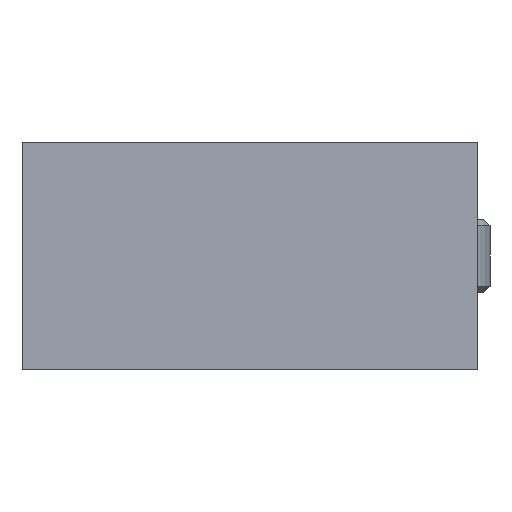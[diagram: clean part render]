
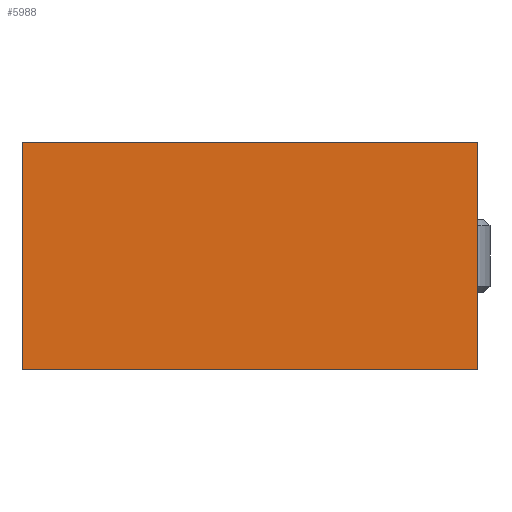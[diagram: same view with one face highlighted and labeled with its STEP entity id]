
A CAD part, left-side view. The second image highlights one B-rep face of the part: STEP entity #5988.
In plain terms, the highlighted planar face has unit normal (-1, 0, 0).
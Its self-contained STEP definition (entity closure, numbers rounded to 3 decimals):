
#1056 = LINE ( 'NONE', #1057, #1058 ) ;
#1057 = CARTESIAN_POINT ( 'NONE',  ( 0., 18., 0. ) ) ;
#1058 = VECTOR ( 'NONE', #1059, 1000. ) ;
#1059 = DIRECTION ( 'NONE',  ( 0., 0., -1. ) ) ;
#2178 = VERTEX_POINT ( 'NONE', #2984 ) ;
#2511 = VERTEX_POINT ( 'NONE', #3166 ) ;
#2599 = ORIENTED_EDGE ( 'NONE', *, *, #2934, .F. ) ;
#2934 = EDGE_CURVE ( 'NONE', #2511, #2178, #3357, .T. ) ;
#2984 = CARTESIAN_POINT ( 'NONE',  ( 0., -18., 9. ) ) ;
#3166 = CARTESIAN_POINT ( 'NONE',  ( 0., 18., 9. ) ) ;
#3357 = LINE ( 'NONE', #3358, #3359 ) ;
#3358 = CARTESIAN_POINT ( 'NONE',  ( 0., 1.714, 9. ) ) ;
#3359 = VECTOR ( 'NONE', #3360, 1000. ) ;
#3360 = DIRECTION ( 'NONE',  ( 0., -1., 0. ) ) ;
#3550 = ORIENTED_EDGE ( 'NONE', *, *, #6265, .T. ) ;
#5116 = FACE_OUTER_BOUND ( 'NONE', #6030, .T. ) ;
#5117 = PLANE ( 'NONE',  #5118 ) ;
#5118 = AXIS2_PLACEMENT_3D ( 'NONE', #5119, #5120, #5121 ) ;
#5119 = CARTESIAN_POINT ( 'NONE',  ( 0., -18., 0. ) ) ;
#5120 = DIRECTION ( 'NONE',  ( -1., 0., 0. ) ) ;
#5121 = DIRECTION ( 'NONE',  ( 0., -1., 0. ) ) ;
#5425 = LINE ( 'NONE', #5426, #5427 ) ;
#5426 = CARTESIAN_POINT ( 'NONE',  ( 0., -18., -9. ) ) ;
#5427 = VECTOR ( 'NONE', #5428, 1000. ) ;
#5428 = DIRECTION ( 'NONE',  ( 0., -1., 0. ) ) ;
#5544 = CARTESIAN_POINT ( 'NONE',  ( 0., 18., -9. ) ) ;
#5630 = CARTESIAN_POINT ( 'NONE',  ( 0., -18., -9. ) ) ;
#5733 = LINE ( 'NONE', #5736, #5737 ) ;
#5736 = CARTESIAN_POINT ( 'NONE',  ( 0., -18., 0. ) ) ;
#5737 = VECTOR ( 'NONE', #5738, 1000. ) ;
#5738 = DIRECTION ( 'NONE',  ( 0., 0., -1. ) ) ;
#5988 = ADVANCED_FACE ( 'NONE', ( #5116 ), #5117, .T. ) ;
#6030 = EDGE_LOOP ( 'NONE', ( #6086, #6123, #2599, #3550 ) ) ;
#6053 = EDGE_CURVE ( 'NONE', #6079, #6092, #5425, .T. ) ;
#6079 = VERTEX_POINT ( 'NONE', #5544 ) ;
#6086 = ORIENTED_EDGE ( 'NONE', *, *, #6053, .T. ) ;
#6092 = VERTEX_POINT ( 'NONE', #5630 ) ;
#6123 = ORIENTED_EDGE ( 'NONE', *, *, #6153, .F. ) ;
#6153 = EDGE_CURVE ( 'NONE', #2178, #6092, #5733, .T. ) ;
#6265 = EDGE_CURVE ( 'NONE', #2511, #6079, #1056, .T. ) ;
